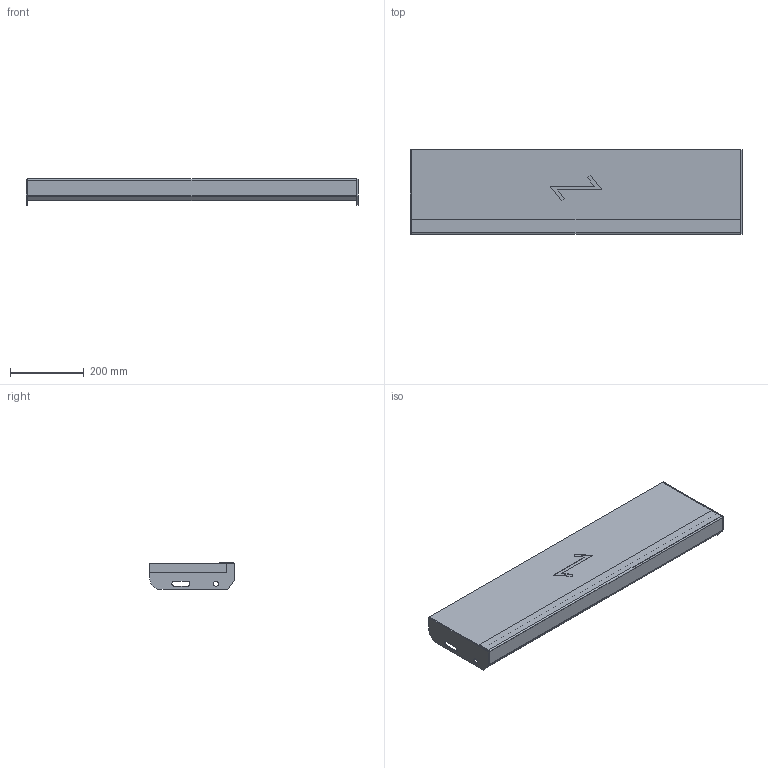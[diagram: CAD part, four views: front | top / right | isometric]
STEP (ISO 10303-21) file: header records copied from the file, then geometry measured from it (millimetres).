
FILE_DESCRIPTION (( 'STEP AP203' ), '1' );
FILE_NAME ('StegTH6-S-nya_steget-900x230.STEP', '2020-03-04T07:43:43', ( '' ), ( '' ), 'SwSTEP 2.0', 'SolidWorks 2019', '' );
FILE_SCHEMA (( 'CONFIG_CONTROL_DESIGN' ));
Length unit declared in the file: millimetre
Products named in the file (5): SW0000038701; SW0000038936; StegTH6-S-nya_steget-900x230; SW0000039245; SW0000039510
Assembly tree (5 placements, depth 3):
  StegTH6-S-nya_steget-900x230
    SW0000039510
      SW0000038936
      SW0000039245
      SW0000038701  x2
Bounding box: 900 x 230 x 72 mm (x, y, z)
Volume: 4933614.2 mm3; surface area: 672322.6 mm2
Topology: 4 solids, 4 shells, 67 faces, 158 edges, 100 vertices
Faces by surface type: plane 51, cylinder 16
Entity records: 2002 total; most frequent: DIRECTION 261, CARTESIAN_POINT 254, ORIENTED_EDGE 238, EDGE_CURVE 119, VECTOR 99, LINE 99, AXIS2_PLACEMENT_3D 81, VERTEX_POINT 74
